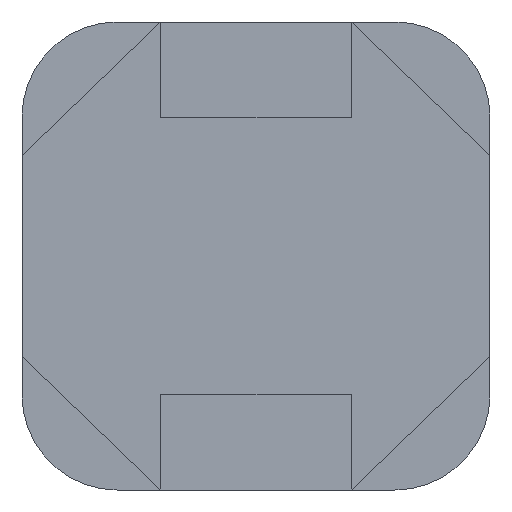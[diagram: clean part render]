
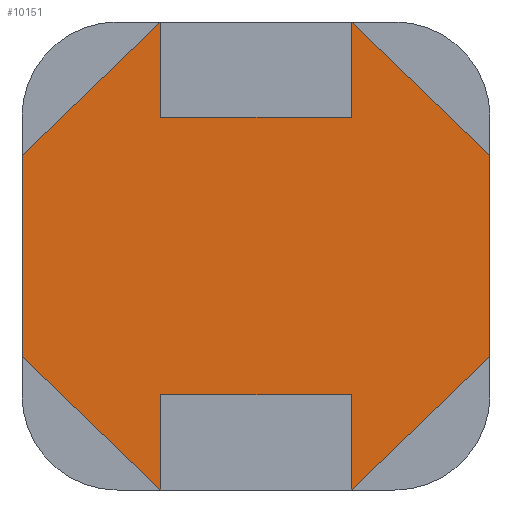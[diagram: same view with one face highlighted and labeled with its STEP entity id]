
A CAD part, front view. The second image highlights one B-rep face of the part: STEP entity #10151.
In plain terms, the highlighted planar face has unit normal (0, -1, 0).
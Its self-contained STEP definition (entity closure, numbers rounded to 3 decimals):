
#2488 = LINE ( 'NONE', #2489, #2601 ) ;
#2489 = CARTESIAN_POINT ( 'NONE',  ( 6.15, 0., 3.65 ) ) ;
#2490 = DIRECTION ( 'NONE',  ( 1., 0., 0. ) ) ;
#2491 = LINE ( 'NONE', #2492, #2602 ) ;
#2492 = CARTESIAN_POINT ( 'NONE',  ( 2.5, 0., 6.15 ) ) ;
#2493 = DIRECTION ( 'NONE',  ( 0., 0., 1. ) ) ;
#2494 = LINE ( 'NONE', #2495, #2603 ) ;
#2495 = CARTESIAN_POINT ( 'NONE',  ( 2.5, 0., 6.15 ) ) ;
#2496 = DIRECTION ( 'NONE',  ( 0.722, 0., -0.692 ) ) ;
#2601 = VECTOR ( 'NONE', #2490, 1000. ) ;
#2602 = VECTOR ( 'NONE', #2493, 1000. ) ;
#2603 = VECTOR ( 'NONE', #2496, 1000. ) ;
#2876 = CARTESIAN_POINT ( 'NONE',  ( 2.5, 0., 3.65 ) ) ;
#2877 = CARTESIAN_POINT ( 'NONE',  ( -2.5, 0., 3.65 ) ) ;
#2878 = CARTESIAN_POINT ( 'NONE',  ( 6.15, 0., 2.65 ) ) ;
#2879 = CARTESIAN_POINT ( 'NONE',  ( 6.15, 0., -2.65 ) ) ;
#2880 = CARTESIAN_POINT ( 'NONE',  ( 2.5, 0., -3.65 ) ) ;
#2881 = CARTESIAN_POINT ( 'NONE',  ( -2.5, 0., -3.65 ) ) ;
#2882 = CARTESIAN_POINT ( 'NONE',  ( -6.15, 0., -2.65 ) ) ;
#2883 = CARTESIAN_POINT ( 'NONE',  ( -6.15, 0., 2.65 ) ) ;
#2981 = FACE_OUTER_BOUND ( 'NONE', #10091, .T. ) ;
#3192 = PLANE ( 'NONE',  #3383 ) ;
#3193 = CARTESIAN_POINT ( 'NONE',  ( 6.15, 0., 6.15 ) ) ;
#3194 = DIRECTION ( 'NONE',  ( 0., 1., 0. ) ) ;
#3195 = DIRECTION ( 'NONE',  ( 0., 0., 1. ) ) ;
#3196 = LINE ( 'NONE', #3197, #3388 ) ;
#3197 = CARTESIAN_POINT ( 'NONE',  ( 6.15, 0., 6.15 ) ) ;
#3198 = DIRECTION ( 'NONE',  ( 0., 0., -1. ) ) ;
#3203 = LINE ( 'NONE', #3204, #3390 ) ;
#3204 = CARTESIAN_POINT ( 'NONE',  ( 6.15, 0., -2.65 ) ) ;
#3205 = DIRECTION ( 'NONE',  ( -0.722, 0., -0.692 ) ) ;
#3209 = LINE ( 'NONE', #3210, #3392 ) ;
#3210 = CARTESIAN_POINT ( 'NONE',  ( 2.5, 0., 6.15 ) ) ;
#3211 = DIRECTION ( 'NONE',  ( 0., 0., 1. ) ) ;
#3215 = LINE ( 'NONE', #3216, #3394 ) ;
#3216 = CARTESIAN_POINT ( 'NONE',  ( 6.15, 0., -3.65 ) ) ;
#3217 = DIRECTION ( 'NONE',  ( -1., 0., 0. ) ) ;
#3218 = LINE ( 'NONE', #3219, #3395 ) ;
#3219 = CARTESIAN_POINT ( 'NONE',  ( -2.5, 0., 6.15 ) ) ;
#3220 = DIRECTION ( 'NONE',  ( 0., 0., -1. ) ) ;
#3221 = LINE ( 'NONE', #3222, #3396 ) ;
#3222 = CARTESIAN_POINT ( 'NONE',  ( -2.5, 0., -6.15 ) ) ;
#3223 = DIRECTION ( 'NONE',  ( -0.722, 0., 0.692 ) ) ;
#3227 = LINE ( 'NONE', #3228, #3398 ) ;
#3228 = CARTESIAN_POINT ( 'NONE',  ( -6.15, 0., 6.15 ) ) ;
#3229 = DIRECTION ( 'NONE',  ( 0., 0., 1. ) ) ;
#3233 = LINE ( 'NONE', #3234, #3400 ) ;
#3234 = CARTESIAN_POINT ( 'NONE',  ( -6.15, 0., 2.65 ) ) ;
#3235 = DIRECTION ( 'NONE',  ( 0.722, 0., 0.692 ) ) ;
#3236 = LINE ( 'NONE', #3237, #3401 ) ;
#3237 = CARTESIAN_POINT ( 'NONE',  ( -2.5, 0., 6.15 ) ) ;
#3238 = DIRECTION ( 'NONE',  ( 0., 0., -1. ) ) ;
#3383 = AXIS2_PLACEMENT_3D ( 'NONE', #3193, #3194, #3195 ) ;
#3388 = VECTOR ( 'NONE', #3198, 1000. ) ;
#3390 = VECTOR ( 'NONE', #3205, 1000. ) ;
#3392 = VECTOR ( 'NONE', #3211, 1000. ) ;
#3394 = VECTOR ( 'NONE', #3217, 1000. ) ;
#3395 = VECTOR ( 'NONE', #3220, 1000. ) ;
#3396 = VECTOR ( 'NONE', #3223, 1000. ) ;
#3398 = VECTOR ( 'NONE', #3229, 1000. ) ;
#3400 = VECTOR ( 'NONE', #3235, 1000. ) ;
#3401 = VECTOR ( 'NONE', #3238, 1000. ) ;
#7615 = CARTESIAN_POINT ( 'NONE',  ( 2.5, 0., -6.15 ) ) ;
#7618 = CARTESIAN_POINT ( 'NONE',  ( -2.5, 0., -6.15 ) ) ;
#7625 = CARTESIAN_POINT ( 'NONE',  ( -2.5, 0., 6.15 ) ) ;
#7628 = CARTESIAN_POINT ( 'NONE',  ( 2.5, 0., 6.15 ) ) ;
#8953 = EDGE_CURVE ( 'NONE', #10030, #10029, #2488, .T. ) ;
#8954 = EDGE_CURVE ( 'NONE', #10029, #11245, #2491, .T. ) ;
#8955 = EDGE_CURVE ( 'NONE', #11245, #10031, #2494, .T. ) ;
#10029 = VERTEX_POINT ( 'NONE', #2876 ) ;
#10030 = VERTEX_POINT ( 'NONE', #2877 ) ;
#10031 = VERTEX_POINT ( 'NONE', #2878 ) ;
#10032 = VERTEX_POINT ( 'NONE', #2879 ) ;
#10033 = VERTEX_POINT ( 'NONE', #2880 ) ;
#10034 = VERTEX_POINT ( 'NONE', #2881 ) ;
#10035 = VERTEX_POINT ( 'NONE', #2882 ) ;
#10036 = VERTEX_POINT ( 'NONE', #2883 ) ;
#10079 = ORIENTED_EDGE ( 'NONE', *, *, #10159, .F. ) ;
#10080 = ORIENTED_EDGE ( 'NONE', *, *, #10164, .F. ) ;
#10081 = ORIENTED_EDGE ( 'NONE', *, *, #10162, .F. ) ;
#10082 = ORIENTED_EDGE ( 'NONE', *, *, #10160, .F. ) ;
#10083 = ORIENTED_EDGE ( 'NONE', *, *, #10158, .F. ) ;
#10084 = ORIENTED_EDGE ( 'NONE', *, *, #10156, .F. ) ;
#10085 = ORIENTED_EDGE ( 'NONE', *, *, #10154, .F. ) ;
#10086 = ORIENTED_EDGE ( 'NONE', *, *, #10152, .F. ) ;
#10087 = ORIENTED_EDGE ( 'NONE', *, *, #8955, .F. ) ;
#10088 = ORIENTED_EDGE ( 'NONE', *, *, #8954, .F. ) ;
#10089 = ORIENTED_EDGE ( 'NONE', *, *, #8953, .F. ) ;
#10090 = ORIENTED_EDGE ( 'NONE', *, *, #10165, .F. ) ;
#10091 = EDGE_LOOP ( 'NONE', ( #10080, #10081, #10082, #10079, #10083, #10084, #10085, #10086, #10087, #10088, #10089, #10090 ) ) ;
#10151 = ADVANCED_FACE ( 'NONE', ( #2981 ), #3192, .F. ) ;
#10152 = EDGE_CURVE ( 'NONE', #10031, #10032, #3196, .T. ) ;
#10154 = EDGE_CURVE ( 'NONE', #10032, #11232, #3203, .T. ) ;
#10156 = EDGE_CURVE ( 'NONE', #11232, #10033, #3209, .T. ) ;
#10158 = EDGE_CURVE ( 'NONE', #10033, #10034, #3215, .T. ) ;
#10159 = EDGE_CURVE ( 'NONE', #10034, #11235, #3218, .T. ) ;
#10160 = EDGE_CURVE ( 'NONE', #11235, #10035, #3221, .T. ) ;
#10162 = EDGE_CURVE ( 'NONE', #10035, #10036, #3227, .T. ) ;
#10164 = EDGE_CURVE ( 'NONE', #10036, #11242, #3233, .T. ) ;
#10165 = EDGE_CURVE ( 'NONE', #11242, #10030, #3236, .T. ) ;
#11232 = VERTEX_POINT ( 'NONE', #7615 ) ;
#11235 = VERTEX_POINT ( 'NONE', #7618 ) ;
#11242 = VERTEX_POINT ( 'NONE', #7625 ) ;
#11245 = VERTEX_POINT ( 'NONE', #7628 ) ;
